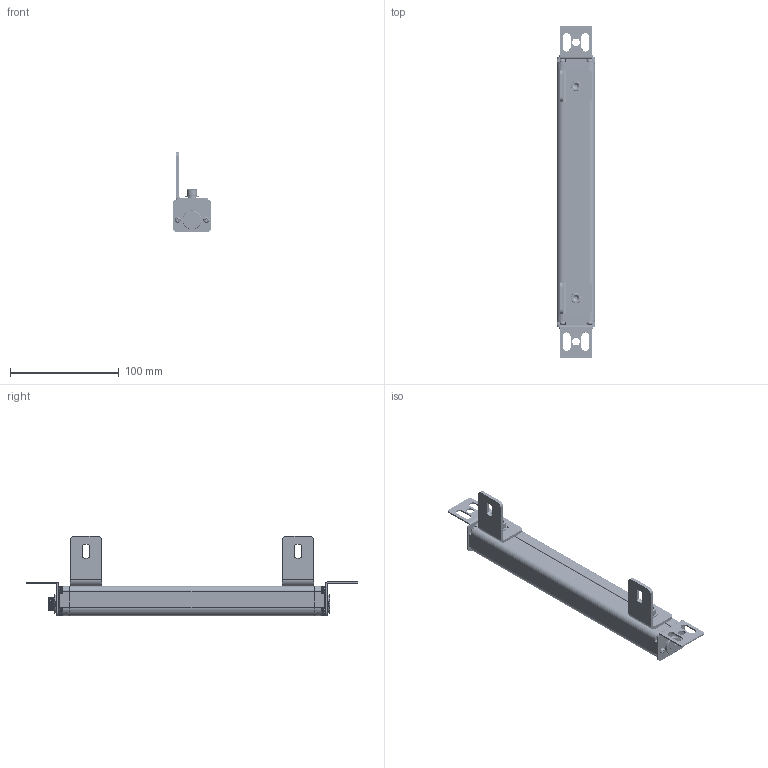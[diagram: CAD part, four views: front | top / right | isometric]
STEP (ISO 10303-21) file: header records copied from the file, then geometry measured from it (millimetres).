
FILE_DESCRIPTION((''),'2;1');
FILE_NAME('ELG-0440_ASM','2021-08-07T09:12:50',('18720616900'),(''),'CREO PARAMETRIC BY PTC INC, 2019010','CREO PARAMETRIC BY PTC INC, 2019010','');
FILE_SCHEMA(('CONFIG_CONTROL_DESIGN'));
Products named in the file (18): ELG--00; ELG--000; ELG000; M3--0001; 3000; 3--0001; ELG_30001_ASM; ST-3-12; L20001; M3-6; L10001; M6-1--00; M6-1-00; M6-8--0001; 00; L1--0001_ASM; ELG-0440_ASM
Assembly tree (34 placements, depth 3):
  ELG-0440_ASM
    ELG--00
    ELG--000
    ELG000
    ELG000
    M3--0001  x4
    ELG_30001_ASM
      3000
      3--0001  x3
    ST-3-12  x8
    L20001  x2
    M3-6  x4
    L1--0001_ASM  x2
      L10001
      M6-1--00
      M6-1-00
      M6-8--0001
      00
Bounding box: 35 x 305 x 73.4 mm (x, y, z)
Volume: 226064.5 mm3; surface area: 76379.8 mm2
Topology: 36 solids, 36 shells, 3404 faces, 9468 edges, 6167 vertices
Faces by surface type: cylinder 1928, plane 616, bspline 398, cone 353, torus 99, sphere 10
Entity records: 68753 total; most frequent: CARTESIAN_POINT 35026, ORIENTED_EDGE 7326, DIRECTION 6679, EDGE_CURVE 3663, AXIS2_PLACEMENT_3D 2530, VERTEX_POINT 2387, VECTOR 1619, LINE 1619
